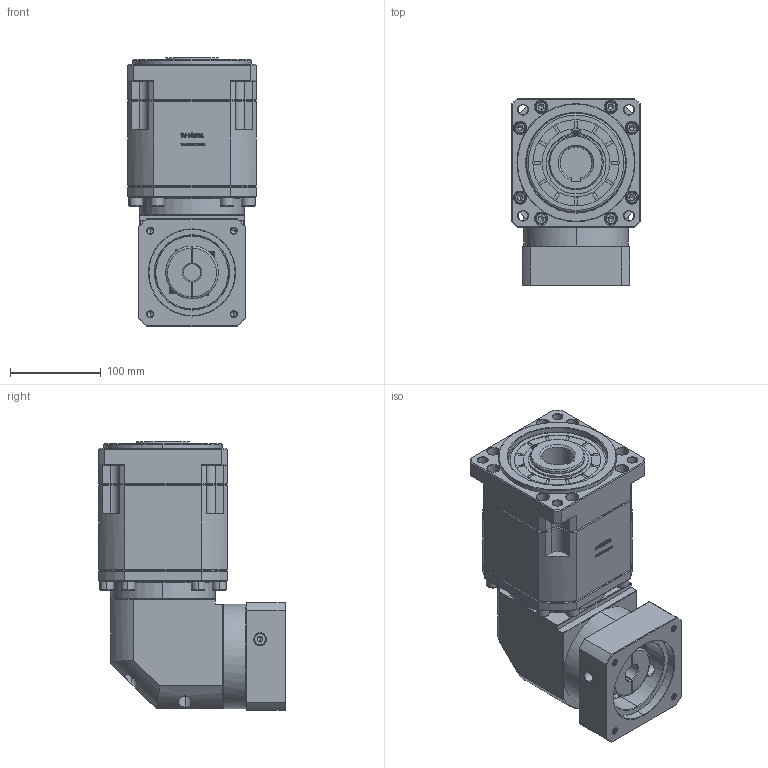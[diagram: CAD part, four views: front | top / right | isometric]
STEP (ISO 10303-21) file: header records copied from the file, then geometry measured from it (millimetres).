
FILE_DESCRIPTION (( 'STEP AP214' ), '1' );
FILE_NAME ('ZBR142A-K35-L3-19-95-130-M8.step', '2023-03-20T04:16:47', ( '' ), ( '' ), 'SwSTEP 2.0', 'SolidWorks 2016', '' );
FILE_SCHEMA (( 'AUTOMOTIVE_DESIGN' ));
Length unit declared in the file: millimetre
Products named in the file (1): ZBR142A-K35-L3-19-95-130-M8
Bounding box: 142 x 205.9 x 295.2 mm (x, y, z)
Volume: 4988334.4 mm3; surface area: 331826.7 mm2
Topology: 6 solids, 6 shells, 3129 faces, 8262 edges, 5300 vertices
Faces by surface type: plane 1645, bspline 585, cylinder 465, cone 390, torus 44
Entity records: 164075 total; most frequent: CARTESIAN_POINT 56673, ORIENTED_EDGE 16420, DIRECTION 12878, EDGE_CURVE 8210, LINE 5528, VECTOR 5528, VERTEX_POINT 5300, AXIS2_PLACEMENT_3D 3675
